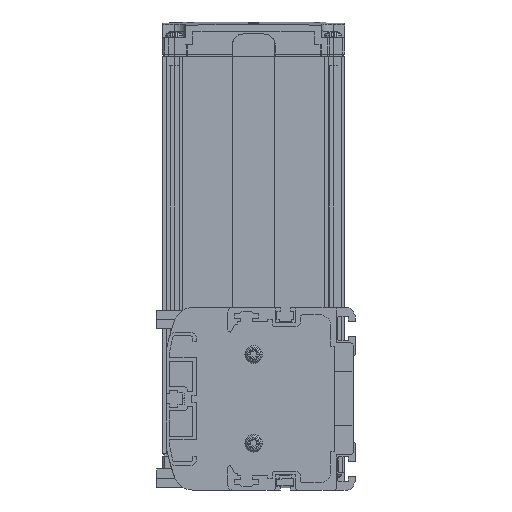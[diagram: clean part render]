
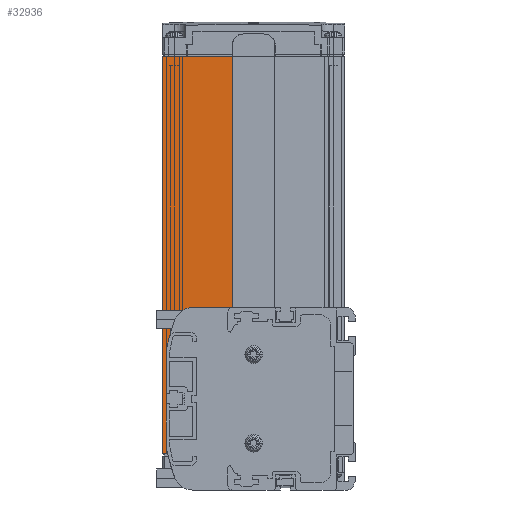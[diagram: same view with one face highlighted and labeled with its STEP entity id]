
A CAD part, left-side view. The second image highlights one B-rep face of the part: STEP entity #32936.
In plain terms, the highlighted planar face has unit normal (-1, 0, 0).
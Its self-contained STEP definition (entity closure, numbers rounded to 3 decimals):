
#5439=CARTESIAN_POINT('',(3.,79.,19.823));
#5440=DIRECTION('',(1.,0.,0.));
#5441=DIRECTION('',(0.,1.,0.));
#5442=AXIS2_PLACEMENT_3D('',#5439,#5440,#5441);
#5452=DIRECTION('',(0.,0.,1.));
#5453=VECTOR('',#5452,39.645);
#5454=CARTESIAN_POINT('',(3.,81.,-19.823));
#5455=LINE('',#5454,#5453);
#5492=CARTESIAN_POINT('',(3.,79.,-19.823));
#5493=DIRECTION('',(-1.,0.,0.));
#5494=DIRECTION('',(0.,1.,0.));
#5495=AXIS2_PLACEMENT_3D('',#5492,#5493,#5494);
#5506=CARTESIAN_POINT('',(3.,2.235,-6.));
#5507=DIRECTION('',(1.,0.,0.));
#5508=DIRECTION('',(0.,0.976,-0.219));
#5509=AXIS2_PLACEMENT_3D('',#5506,#5507,#5508);
#5841=CARTESIAN_POINT('',(3.,2.235,6.));
#5842=DIRECTION('',(1.,0.,0.));
#5843=DIRECTION('',(0.,0.984,0.177));
#5844=AXIS2_PLACEMENT_3D('',#5841,#5842,#5843);
#5854=DIRECTION('',(0.,-1.,0.));
#5855=VECTOR('',#5854,2.203);
#5856=CARTESIAN_POINT('',(3.,82.5,-23.5));
#5857=LINE('',#5856,#5855);
#5858=DIRECTION('',(0.,0.,-1.));
#5859=VECTOR('',#5858,170.);
#5860=CARTESIAN_POINT('',(3.,82.5,146.5));
#5861=LINE('',#5860,#5859);
#5862=DIRECTION('',(0.,1.,0.));
#5863=VECTOR('',#5862,29.9);
#5864=CARTESIAN_POINT('',(3.,52.6,146.5));
#5865=LINE('',#5864,#5863);
#5866=DIRECTION('',(0.,-1.,0.));
#5867=VECTOR('',#5866,17.155);
#5868=CARTESIAN_POINT('',(3.,69.755,39.));
#5869=LINE('',#5868,#5867);
#15968=DIRECTION('',(0.,0.,1.));
#15969=VECTOR('',#15968,107.5);
#15970=CARTESIAN_POINT('',(3.,52.6,39.));
#15971=LINE('',#15970,#15969);
#16004=CARTESIAN_POINT('',(3.,69.755,31.));
#16005=DIRECTION('',(-1.,0.,0.));
#16006=DIRECTION('',(0.,0.,1.));
#16007=AXIS2_PLACEMENT_3D('',#16004,#16005,#16006);
#20018=CARTESIAN_POINT('',(3.,82.5,-23.5));
#20020=VERTEX_POINT('',#20018);
#20115=CARTESIAN_POINT('',(3.,52.6,146.5));
#20116=VERTEX_POINT('',#20115);
#20117=CARTESIAN_POINT('',(3.,82.5,146.5));
#20118=VERTEX_POINT('',#20117);
#24662=CARTESIAN_POINT('',(3.,69.755,39.));
#24663=CARTESIAN_POINT('',(3.,52.6,39.));
#24664=VERTEX_POINT('',#24662);
#24665=VERTEX_POINT('',#24663);
#24666=CARTESIAN_POINT('',(3.,80.297,-23.5));
#24668=VERTEX_POINT('',#24666);
#24690=CARTESIAN_POINT('',(3.,81.,-19.823));
#24691=CARTESIAN_POINT('',(3.,80.968,-20.177));
#24692=VERTEX_POINT('',#24690);
#24693=VERTEX_POINT('',#24691);
#24706=CARTESIAN_POINT('',(3.,77.257,33.778));
#24707=VERTEX_POINT('',#24706);
#24708=CARTESIAN_POINT('',(3.,80.968,20.177));
#24709=VERTEX_POINT('',#24708);
#24710=CARTESIAN_POINT('',(3.,81.,19.823));
#24711=VERTEX_POINT('',#24710);
#32912=CARTESIAN_POINT('',(3.,67.55,61.5));
#32913=DIRECTION('',(1.,0.,0.));
#32914=DIRECTION('',(0.,-1.,0.));
#32915=AXIS2_PLACEMENT_3D('',#32912,#32913,#32914);
#32916=PLANE('',#32915);
#32918=ORIENTED_EDGE('',*,*,#32917,.F.);
#32920=ORIENTED_EDGE('',*,*,#32919,.T.);
#32921=ORIENTED_EDGE('',*,*,#32899,.F.);
#32922=ORIENTED_EDGE('',*,*,#32327,.F.);
#32923=ORIENTED_EDGE('',*,*,#32342,.F.);
#32924=ORIENTED_EDGE('',*,*,#32381,.T.);
#32925=ORIENTED_EDGE('',*,*,#32402,.F.);
#32927=ORIENTED_EDGE('',*,*,#32926,.F.);
#32929=ORIENTED_EDGE('',*,*,#32928,.F.);
#32931=ORIENTED_EDGE('',*,*,#32930,.F.);
#32933=ORIENTED_EDGE('',*,*,#32932,.F.);
#32934=EDGE_LOOP('',(#32918,#32920,#32921,#32922,#32923,#32924,#32925,#32927,
#32929,#32931,#32933));
#32935=FACE_OUTER_BOUND('',#32934,.F.);
#32936=ADVANCED_FACE('',(#32935),#32916,.F.);
#5443=CIRCLE('',#5442,2.);
#5496=CIRCLE('',#5495,2.);
#5510=CIRCLE('',#5509,80.);
#5845=CIRCLE('',#5844,80.);
#16008=CIRCLE('',#16007,8.);
#32327=EDGE_CURVE('',#24711,#24709,#5443,.T.);
#32342=EDGE_CURVE('',#24692,#24711,#5455,.T.);
#32381=EDGE_CURVE('',#24692,#24693,#5496,.T.);
#32402=EDGE_CURVE('',#24668,#24693,#5510,.T.);
#32899=EDGE_CURVE('',#24709,#24707,#5845,.T.);
#32917=EDGE_CURVE('',#24664,#24665,#5869,.T.);
#32919=EDGE_CURVE('',#24664,#24707,#16008,.T.);
#32926=EDGE_CURVE('',#20020,#24668,#5857,.T.);
#32928=EDGE_CURVE('',#20118,#20020,#5861,.T.);
#32930=EDGE_CURVE('',#20116,#20118,#5865,.T.);
#32932=EDGE_CURVE('',#24665,#20116,#15971,.T.);
